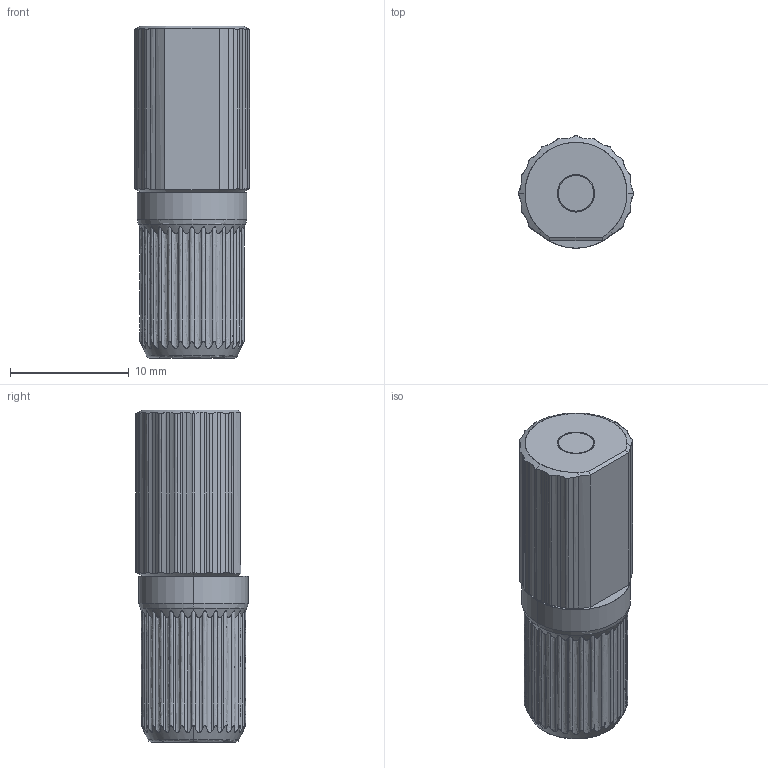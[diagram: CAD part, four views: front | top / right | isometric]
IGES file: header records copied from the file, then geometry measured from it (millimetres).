
Start section: SolidWorks IGES file using analytic representation for surfaces
Global section: file name: G:\RELEASED\83500\83560-XXX TI-300 Series\TI-320-X.XX-02.IGS; native system: SolidWorks 2013; preprocessor: SolidWorks 2013; author: hmanderson; date: 131002.102513; units: millimetre
Bounding box: 9.71 x 9.45 x 28 mm (x, y, z)
Surface area: 1067.7 mm2 (no closed solid volume)
Topology: 0 solids, 0 shells, 287 faces, 2948 edges, 2948 vertices
Faces by surface type: revolution 218, bspline 69
